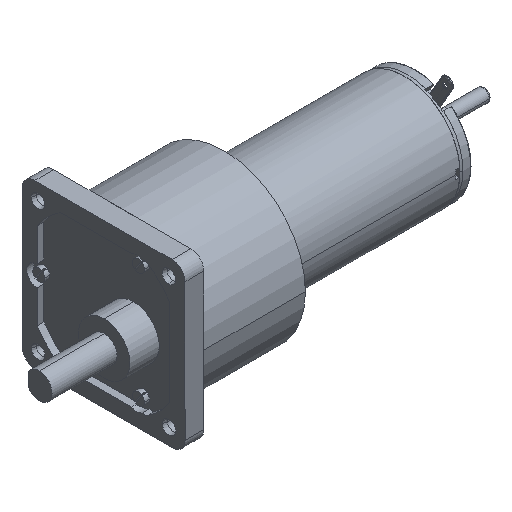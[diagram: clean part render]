
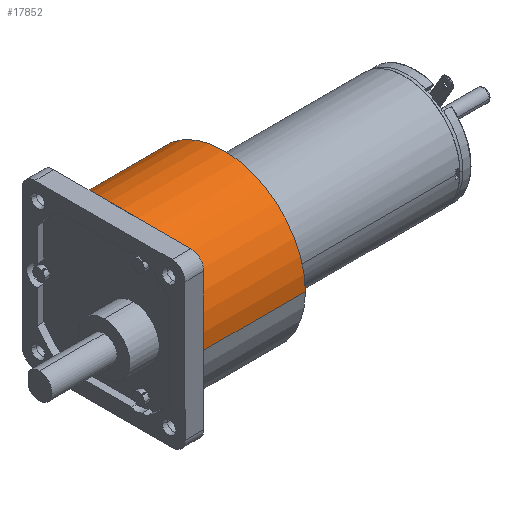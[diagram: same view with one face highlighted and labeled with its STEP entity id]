
A CAD part, isometric view. The second image highlights one B-rep face of the part: STEP entity #17852.
In plain terms, the highlighted cylindrical face has radius 19 mm (diameter 38 mm), a partial arc.
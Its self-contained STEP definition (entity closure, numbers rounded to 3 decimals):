
#397 = EDGE_CURVE ( 'NONE', #15562, #9769, #10591, .T. ) ;
#458 = CIRCLE ( 'NONE', #12334, 19. ) ;
#1559 = CARTESIAN_POINT ( 'NONE',  ( 4.4, 0., 7. ) ) ;
#3087 = DIRECTION ( 'NONE',  ( 0., 0., -1. ) ) ;
#3145 = VERTEX_POINT ( 'NONE', #11900 ) ;
#3582 = ORIENTED_EDGE ( 'NONE', *, *, #397, .F. ) ;
#3696 = CARTESIAN_POINT ( 'NONE',  ( 4.4, 0., 26. ) ) ;
#4723 = ORIENTED_EDGE ( 'NONE', *, *, #13888, .T. ) ;
#4807 = ORIENTED_EDGE ( 'NONE', *, *, #14169, .T. ) ;
#5078 = LINE ( 'NONE', #16713, #12756 ) ;
#5280 = LINE ( 'NONE', #9601, #17094 ) ;
#6011 = DIRECTION ( 'NONE',  ( 1., 0., 0. ) ) ;
#6300 = AXIS2_PLACEMENT_3D ( 'NONE', #15199, #16608, #7580 ) ;
#6735 = EDGE_CURVE ( 'NONE', #13092, #15562, #5280, .T. ) ;
#6782 = DIRECTION ( 'NONE',  ( 1., 0., 0. ) ) ;
#7118 = FACE_OUTER_BOUND ( 'NONE', #9912, .T. ) ;
#7580 = DIRECTION ( 'NONE',  ( 0., 0., -1. ) ) ;
#8003 = DIRECTION ( 'NONE',  ( 1., 0., 0. ) ) ;
#9279 = CYLINDRICAL_SURFACE ( 'NONE', #6300, 19. ) ;
#9395 = ORIENTED_EDGE ( 'NONE', *, *, #16816, .T. ) ;
#9601 = CARTESIAN_POINT ( 'NONE',  ( 4.4, 0., 26. ) ) ;
#9769 = VERTEX_POINT ( 'NONE', #11381 ) ;
#9912 = EDGE_LOOP ( 'NONE', ( #15471, #9395, #4807, #4723, #3582 ) ) ;
#10591 = CIRCLE ( 'NONE', #17860, 19. ) ;
#11381 = CARTESIAN_POINT ( 'NONE',  ( 28.1, 0., -12. ) ) ;
#11900 = CARTESIAN_POINT ( 'NONE',  ( 4.4, 0., -12. ) ) ;
#12171 = AXIS2_PLACEMENT_3D ( 'NONE', #16017, #6782, #17584 ) ;
#12259 = DIRECTION ( 'NONE',  ( 1., 0., 0. ) ) ;
#12334 = AXIS2_PLACEMENT_3D ( 'NONE', #1559, #12259, #3087 ) ;
#12735 = CARTESIAN_POINT ( 'NONE',  ( 4.4, -19., 7. ) ) ;
#12756 = VECTOR ( 'NONE', #6011, 1000. ) ;
#12762 = DIRECTION ( 'NONE',  ( 1., 0., 0. ) ) ;
#12990 = CIRCLE ( 'NONE', #12171, 19. ) ;
#13092 = VERTEX_POINT ( 'NONE', #3696 ) ;
#13888 = EDGE_CURVE ( 'NONE', #3145, #9769, #5078, .T. ) ;
#14169 = EDGE_CURVE ( 'NONE', #14697, #3145, #12990, .T. ) ;
#14697 = VERTEX_POINT ( 'NONE', #12735 ) ;
#15024 = CARTESIAN_POINT ( 'NONE',  ( 28.1, 0., 26. ) ) ;
#15199 = CARTESIAN_POINT ( 'NONE',  ( 4.4, 0., 7. ) ) ;
#15471 = ORIENTED_EDGE ( 'NONE', *, *, #6735, .F. ) ;
#15562 = VERTEX_POINT ( 'NONE', #15024 ) ;
#16017 = CARTESIAN_POINT ( 'NONE',  ( 4.4, 0., 7. ) ) ;
#16608 = DIRECTION ( 'NONE',  ( 1., 0., 0. ) ) ;
#16713 = CARTESIAN_POINT ( 'NONE',  ( 4.4, 0., -12. ) ) ;
#16816 = EDGE_CURVE ( 'NONE', #13092, #14697, #458, .T. ) ;
#17094 = VECTOR ( 'NONE', #12762, 1000. ) ;
#17242 = CARTESIAN_POINT ( 'NONE',  ( 28.1, 0., 7. ) ) ;
#17584 = DIRECTION ( 'NONE',  ( 0., 0., -1. ) ) ;
#17852 = ADVANCED_FACE ( 'NONE', ( #7118 ), #9279, .T. ) ;
#17860 = AXIS2_PLACEMENT_3D ( 'NONE', #17242, #8003, #18763 ) ;
#18763 = DIRECTION ( 'NONE',  ( 0., 0., -1. ) ) ;
